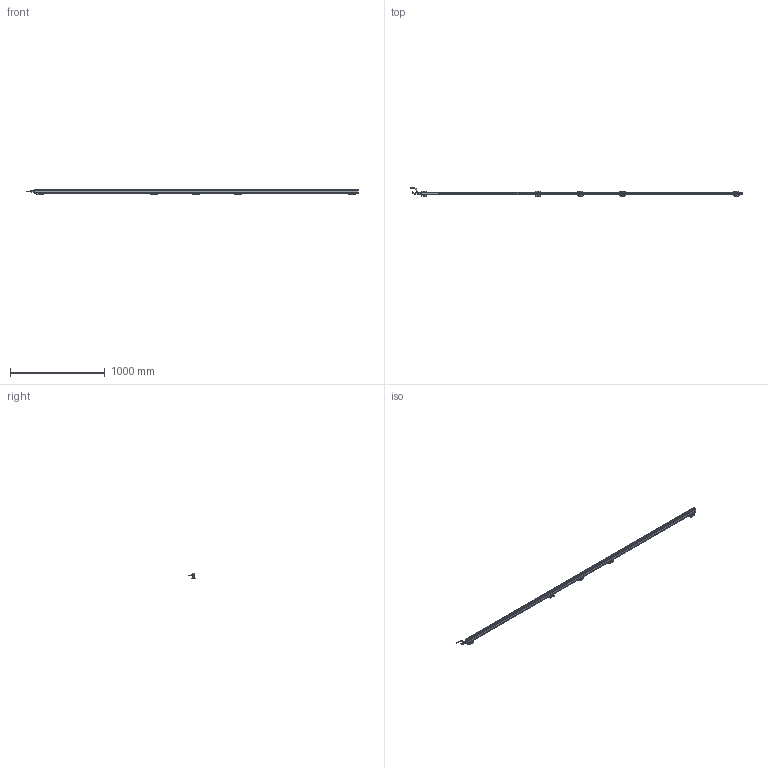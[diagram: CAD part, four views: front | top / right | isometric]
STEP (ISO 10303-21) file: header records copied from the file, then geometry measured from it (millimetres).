
FILE_DESCRIPTION(('Bauteilbeschreibung','HiCAD-Model','HiCAD-STEP-TRANSLATION','Bauteilbeschreibung'),'2;1');
FILE_NAME('PERFORMAXIQEASY_3330-3420_3D.STP','2014-03-05T13:18:41+00:00',('Konstrukteur'),('Konstrukteur Firma GmbH'),' HiCAD 2011, Step 1600.0 ','HiCAD 2011','confidential');
FILE_SCHEMA(('AUTOMOTIVE_DESIGN { 1 2 10303 214 0 1 1 1 }'));
Products named in the file (51): PERFORMAXIQEASY_3330_3420_3D; A_PERFORMAX IQ EASY 3330_3420; A_PERFORMAX IQ EASY SPEED; A_CAP DE; A_CAP CE_5; LED_2C_3MM; LED02C03MM; A519020315_CONNECTOR APPLIANCE; A_INSERT; A_CONTACTS; A_HOUSING; A_PROFILE; A_POTTING; PIN; PIN0; A532000100_BRACKET BARS_ MOUNT; A_SIDE PIECE; A0SIDE0PIECE; A_BRACKET SMALL; A_SLIDE PIECE; A5320001000BRACKET0BARS00MOUNT; A0SIDE0PIECE0; A0SIDE0PIECE1; A0BRACKET0SMALL; A0SLIDE0PIECE; A5320001000BRACKET0BARS00MOUNT0; A0SIDE0PIECE2; A0SIDE0PIECE3; A0BRACKET0SMALL0; A0SLIDE0PIECE0; A0SIDE0PIECE4; A0SIDE0PIECE5; A0BRACKET0SMALL1; A0SLIDE0PIECE1; A0SIDE0PIECE6; A0SIDE0PIECE7; A0BRACKET0SMALL2; A0SLIDE0PIECE2; A_CONNECTOR STRAIGHT; EXTRUDED SOLID_0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
Assembly tree (50 placements, depth 5):
  PERFORMAXIQEASY_3330_3420_3D
    A_PERFORMAX IQ EASY 3330_3420
      A_PERFORMAX IQ EASY SPEED
        A_CAP DE
        A_CAP CE_5
        LED_2C_3MM
        LED02C03MM
        A519020315_CONNECTOR APPLIANCE
          A_INSERT
          A_CONTACTS
          A_HOUSING
        A_PROFILE
        A_POTTING
        PIN
        PIN0
      A532000100_BRACKET BARS_ MOUNT
        A_SIDE PIECE
        A0SIDE0PIECE
        A_BRACKET SMALL
        A_SLIDE PIECE
      A5320001000BRACKET0BARS00MOUNT
        A0SIDE0PIECE0
        A0SIDE0PIECE1
        A0BRACKET0SMALL
        A0SLIDE0PIECE
      A5320001000BRACKET0BARS00MOUNT0
        A0SIDE0PIECE2
        A0SIDE0PIECE3
        A0BRACKET0SMALL0
        A0SLIDE0PIECE0
      A5320001000BRACKET0BARS00MOUNT0
        A0SIDE0PIECE4
        A0SIDE0PIECE5
        A0BRACKET0SMALL1
        A0SLIDE0PIECE1
      A5320001000BRACKET0BARS00MOUNT0
        A0SIDE0PIECE6
        A0SIDE0PIECE7
        A0BRACKET0SMALL2
        A0SLIDE0PIECE2
      A_CONNECTOR STRAIGHT
        EXTRUDED SOLID_0
        DRAAD GEBOGEN
        REVOLVED SOLID_1
        REVOLVED SOLID_3
      A_CONNECTOR ANGLED
        REVOLVED0SOLID01
        EXTRUDED0SOLID00
        C_EDGE SWEEP_0
        REVOLVED SOLID_2
        REVOLVED0SOLID03
Bounding box: 3497.89 x 84.28 x 63.13 mm (x, y, z)
Volume: 3519335.2 mm3; surface area: 852081.7 mm2
Topology: 45 solids, 45 shells, 4215 faces, 10820 edges, 6422 vertices
Faces by surface type: cylinder 1797, plane 1597, sphere 277, torus 252, bspline 208, cone 84
Full cylindrical faces by diameter (mm): 0.8 x10, 1 x5, 2.387 x10, 3 x23, 3.1 x1, 4.2 x2, 5 x4, 5.5 x25, 8 x2, 8.2 x1, 8.4 x2, 8.945 x1, 9 x2, 10.2 x1, 10.5 x3, 11 x1, 12 x3, 12.8 x1, 13.8 x4, 14.5 x3
Entity records: 195163 total; most frequent: CARTESIAN_POINT 45850, DIRECTION 20961, ORIENTED_EDGE 20534, EDGE_CURVE 10267, COLOUR_RGB 9750, PRESENTATION_STYLE_ASSIGNMENT 9750, OVER_RIDING_STYLED_ITEM 9710, CURVE_STYLE 9705
